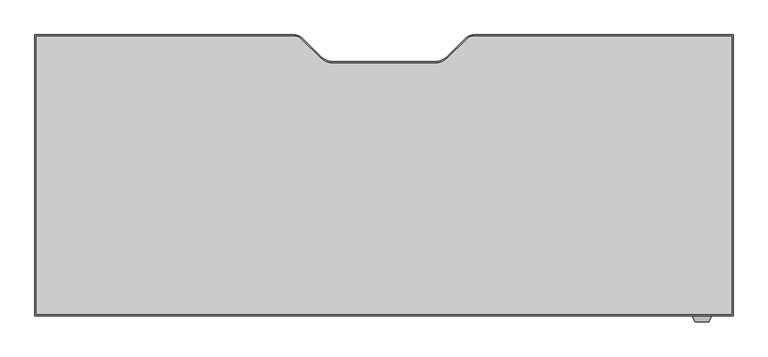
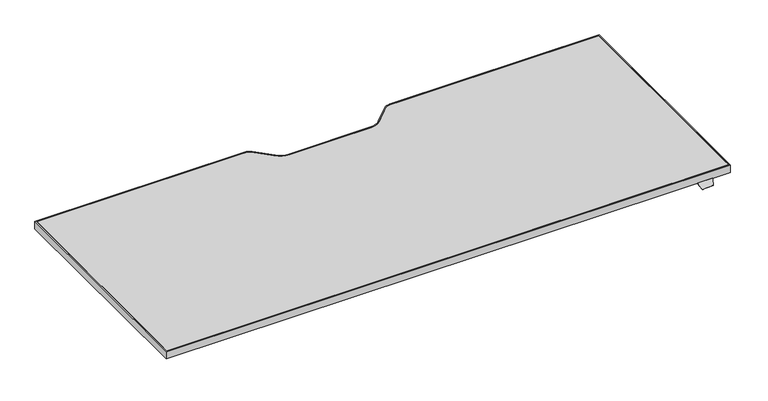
"""IFC4 building model written with IfcOpenShell, lengths in millimetres: furniture geometry, Steelcase Turnstone - Bivi - Height Adjustable Desk - C Base : 29D x 72W."""

import ifcopenshell
import ifcopenshell.guid

model = None  # the IFC model being written
_history = None  # IfcOwnerHistory: only IFC2X3 demands one
_inside = {}  # id of a spatial element -> (the spatial element, [elements in it])
_under = {}  # id of a project, library or spatial element -> (it, [spatial elements below it])
_declared = {}  # id of a project -> (the project, [libraries it declares])
_typed = {}  # id of a type object -> (the type object, [elements of that type])
_made_of = {}  # id of a material, layer set ... -> (it, [elements and type objects made of it])


def new_model(schema):
    """Start an empty IFC model of exactly this schema.

    Asked for "IFC4X3", IfcOpenShell would pick the latest addendum, in which some entities
    have other attributes; the version numbers below select the first issue.
    IFC2X3 requires an IfcOwnerHistory on every rooted entity: one is made here for all.
    """
    global model, _history
    if schema == "IFC4X3":
        model = ifcopenshell.file(schema_version=(4, 3, 0, 0))
    else:
        model = ifcopenshell.file(schema=schema)
    _inside.clear()
    _under.clear()
    _declared.clear()
    _typed.clear()
    _made_of.clear()
    _history = None
    if model.schema == "IFC2X3":
        org = make("IfcOrganization", Name="unknown")
        user = make(
            "IfcPersonAndOrganization",
            ThePerson=make("IfcPerson", FamilyName="unknown"),
            TheOrganization=org,
        )
        app = make(
            "IfcApplication",
            ApplicationDeveloper=org,
            Version="unknown",
            ApplicationFullName="unknown",
            ApplicationIdentifier="unknown",
        )
        _history = make(
            "IfcOwnerHistory",
            OwningUser=user,
            OwningApplication=app,
            ChangeAction="ADDED",
            CreationDate=0,
        )
    return model


def make(cls, **values):
    """One entity of the class cls with the attributes given. An attribute that is None is left unset."""
    return model.create_entity(
        cls, **{name: value for name, value in values.items() if value is not None}
    )


def rooted(cls, **values):
    """An entity with a GlobalId (a new one), such as an element, a storey or a relation."""
    return make(cls, GlobalId=ifcopenshell.guid.new(), OwnerHistory=_history, **values)


def si_unit(unit_type, name, prefix=None):
    """IfcSIUnit, for example si_unit("LENGTHUNIT", "METRE", prefix="MILLI")."""
    return make("IfcSIUnit", UnitType=unit_type, Prefix=prefix, Name=name)


def assignment(units):
    """IfcUnitAssignment: the units of a project."""
    return None if units is None else make("IfcUnitAssignment", Units=units)


def point(xyz):
    """IfcCartesianPoint."""
    return None if xyz is None else make("IfcCartesianPoint", Coordinates=xyz)


def direction(xyz):
    """IfcDirection."""
    return None if xyz is None else make("IfcDirection", DirectionRatios=xyz)


def frame(location, z_axis=None, x_axis=None):
    """IfcAxis2Placement3D, a coordinate frame: its origin and axes. An axis left out is left unset."""
    return make(
        "IfcAxis2Placement3D",
        Location=point(location),
        Axis=direction(z_axis),
        RefDirection=direction(x_axis),
    )


def frame_2d(location, x_axis=None):
    """IfcAxis2Placement2D, a coordinate frame in the plane: its origin and x axis."""
    return make(
        "IfcAxis2Placement2D", Location=point(location), RefDirection=direction(x_axis)
    )


def origin():
    """The frame at (0, 0, 0) with its axes left unset."""
    return frame((0.0, 0.0, 0.0))


def place(relative_to, where):
    """IfcLocalPlacement: puts the frame where relative to a parent placement (None: the world)."""
    return make(
        "IfcLocalPlacement", PlacementRelTo=relative_to, RelativePlacement=where
    )


def context(
    kind, dimensions, precision=None, world=None, true_north=None, identifier=None
):
    """IfcGeometricRepresentationContext, for example the 3D "Model" context."""
    return make(
        "IfcGeometricRepresentationContext",
        ContextIdentifier=identifier,
        ContextType=kind,
        CoordinateSpaceDimension=dimensions,
        Precision=precision,
        WorldCoordinateSystem=world,
        TrueNorth=true_north,
    )


def project(units=None, contexts=None):
    """IfcProject with its units and contexts."""
    return rooted(
        "IfcProject",
        Name="project",
        RepresentationContexts=contexts,
        UnitsInContext=assignment(units),
    )


def spatial(cls, under=None, at=None, **own):
    """A site, building, storey or space (cls), placed at a placement, below another one or the project."""
    s = rooted(cls, ObjectPlacement=at, **own)
    if under is not None:
        _under.setdefault(under.id(), (under, []))[1].append(s)
    return s


def polyline(points):
    """IfcPolyline through the points."""
    return make("IfcPolyline", Points=[point(p) for p in points])


def circle_curve(where, radius):
    """IfcCircle in the frame where."""
    return make("IfcCircle", Position=where, Radius=radius)


def trimmed(basis, trim1, trim2, sense, master):
    """IfcTrimmedCurve: the piece of a basis curve between two trims."""
    return make(
        "IfcTrimmedCurve",
        BasisCurve=basis,
        Trim1=trim1,
        Trim2=trim2,
        SenseAgreement=sense,
        MasterRepresentation=master,
    )


def segment(curve, same_sense, transition):
    """IfcCompositeCurveSegment."""
    return make(
        "IfcCompositeCurveSegment",
        Transition=transition,
        SameSense=same_sense,
        ParentCurve=curve,
    )


def composite_curve(segments, self_intersect=None):
    """IfcCompositeCurve: segments joined end to end."""
    return make("IfcCompositeCurve", Segments=segments, SelfIntersect=self_intersect)


def outline(outer, holes=None, kind="AREA"):
    """IfcArbitraryClosedProfileDef: a profile drawn as a closed curve; with holes, ...WithVoids."""
    if holes is None:
        return make("IfcArbitraryClosedProfileDef", ProfileType=kind, OuterCurve=outer)
    return make(
        "IfcArbitraryProfileDefWithVoids",
        ProfileType=kind,
        OuterCurve=outer,
        InnerCurves=holes,
    )


def extrude(swept, where, along, depth):
    """IfcExtrudedAreaSolid: the profile swept, set in the frame where, extruded along a direction by depth."""
    return make(
        "IfcExtrudedAreaSolid",
        SweptArea=swept,
        Position=where,
        ExtrudedDirection=direction(along),
        Depth=depth,
    )


def faces_of(points, faces, orient=None, outer=None):
    """IfcFace entities. A face is a list of loops; a loop is a list of indices into points, from 0.

    orient and outer hold one flag for each loop. By default every Orientation is true, the
    first loop of a face is its IfcFaceOuterBound and the others are IfcFaceBound.
    """
    made = []
    for i, loops in enumerate(faces):
        bounds = []
        for j, loop in enumerate(loops):
            is_outer = j == 0 if outer is None else outer[i][j]
            bounds.append(
                make(
                    "IfcFaceOuterBound" if is_outer else "IfcFaceBound",
                    Bound=make("IfcPolyLoop", Polygon=[points[k] for k in loop]),
                    Orientation=True if orient is None else orient[i][j],
                )
            )
        made.append(make("IfcFace", Bounds=bounds))
    return made


def faceted_brep(points, faces, orient=None, outer=None, voids=None):
    """IfcFacetedBrep: a solid bounded by flat faces; with voids (closed shells), ...WithVoids."""
    shared = [point(p) for p in points]
    hull = make("IfcClosedShell", CfsFaces=faces_of(shared, faces, orient, outer))
    if voids is None:
        return make("IfcFacetedBrep", Outer=hull)
    return make(
        "IfcFacetedBrepWithVoids",
        Outer=hull,
        Voids=[
            make(cls, CfsFaces=faces_of(shared, fs, o, b)) for cls, fs, o, b in voids
        ],
    )


def shape(context_of_items, identifier, shape_type, items):
    """IfcShapeRepresentation: the items that make up one representation, for example the "Body"."""
    return make(
        "IfcShapeRepresentation",
        ContextOfItems=context_of_items,
        RepresentationIdentifier=identifier,
        RepresentationType=shape_type,
        Items=items,
    )


def source(mapping_origin, context_of_items, identifier, shape_type, items):
    """IfcRepresentationMap: a shape defined once, which mapped items show again and again."""
    return make(
        "IfcRepresentationMap",
        MappingOrigin=mapping_origin,
        MappedRepresentation=shape(context_of_items, identifier, shape_type, items),
    )


def transform(
    local_origin,
    x_axis=None,
    y_axis=None,
    z_axis=None,
    scale=None,
    scale2=None,
    scale3=None,
    uniform=True,
):
    """IfcCartesianTransformationOperator3D, or its non-uniform kind. x_axis, y_axis, z_axis: its Axis1, 2, 3."""
    if uniform:
        return make(
            "IfcCartesianTransformationOperator3D",
            Axis1=direction(x_axis),
            Axis2=direction(y_axis),
            LocalOrigin=point(local_origin),
            Scale=scale,
            Axis3=direction(z_axis),
        )
    return make(
        "IfcCartesianTransformationOperator3DnonUniform",
        Axis1=direction(x_axis),
        Axis2=direction(y_axis),
        LocalOrigin=point(local_origin),
        Scale=scale,
        Axis3=direction(z_axis),
        Scale2=scale2,
        Scale3=scale3,
    )


def mapped(mapping_source, mapping_target):
    """IfcMappedItem: shows the shape of a source again, moved by a transform."""
    return make(
        "IfcMappedItem", MappingSource=mapping_source, MappingTarget=mapping_target
    )


def made_of(thing, what):
    """Note that an element or type object is made of a material, layer set ...; save() writes the relation."""
    if what is not None:
        _made_of.setdefault(what.id(), (what, []))[1].append(thing)
    return thing


def element(
    cls,
    number,
    at=None,
    inside=None,
    cuts=None,
    type_object=None,
    material=None,
    context=None,
    identifier="Body",
    shape_type=None,
    held_by="IfcProductDefinitionShape",
    body=None,
    shapes=None,
    **own,
):
    """One element of the class cls, such as IfcWall. Its Tag is "e" and its number.

    at: its placement. inside: the storey or other place that contains it. cuts: it is an
    opening in that element (IfcRelVoidsElement). A single representation is given by context,
    identifier, shape_type and body (its items); several are given by shapes. held_by: the class
    of the entity that holds the representations. save() writes the other relations.
    """
    e = rooted(cls, Tag="e%d" % number, ObjectPlacement=at, **own)
    if body is not None:
        shapes = [shape(context, identifier, shape_type, body)]
    if shapes is not None:
        e.Representation = make(held_by, Representations=shapes)
    if inside is not None:
        _inside.setdefault(inside.id(), (inside, []))[1].append(e)
    if cuts is not None:
        rooted(
            "IfcRelVoidsElement", RelatingBuildingElement=cuts, RelatedOpeningElement=e
        )
    if type_object is not None:
        _typed.setdefault(type_object.id(), (type_object, []))[1].append(e)
    return made_of(e, material)


def aggregate(whole, parts):
    """IfcRelAggregates: a whole, such as a stair, and the parts it consists of."""
    return rooted("IfcRelAggregates", RelatingObject=whole, RelatedObjects=parts)


def save(model, path):
    """Write the relations noted so far, then the file.

    IfcRelAggregates (storeys below a building ...), IfcRelContainedInSpatialStructure (elements
    in a storey), IfcRelDefinesByType, IfcRelAssociatesMaterial and IfcRelDeclares: one each for
    every whole, place, type object, material and project.
    """
    for whole, parts in _under.values():
        aggregate(whole, parts)
    for where, things in _inside.values():
        rooted(
            "IfcRelContainedInSpatialStructure",
            RelatedElements=things,
            RelatingStructure=where,
        )
    for kind, things in _typed.values():
        rooted("IfcRelDefinesByType", RelatedObjects=things, RelatingType=kind)
    for what, things in _made_of.values():
        rooted("IfcRelAssociatesMaterial", RelatedObjects=things, RelatingMaterial=what)
    for by, libraries in _declared.values():
        rooted("IfcRelDeclares", RelatingContext=by, RelatedDefinitions=libraries)
    model.write(path)


def furniture_5edf64bf(model_context):
    return source(origin(), model_context, "Body", "SolidModel", [
        faceted_brep([(468.4177913, -465.8301693, 760.9984131), (468.4177913, -463.3074599, 760.9984131), (468.4177913, -463.3074599, 762.4), (468.4177913, -465.8490853, 762.4), (468.4177913, -467.1594921, 761.3004382), (468.4177913, -467.1594921, 759.8829789), (418.8448135, -465.8490853, 762.4), (418.8448135, -463.3074599, 762.4), (418.8448135, -463.3074599, 760.9984131), (418.8448135, -465.8301693, 760.9984131), (418.8448135, -467.1594921, 759.8829789), (418.8448135, -467.1594921, 761.3004382), (461.4358363, -482.1323429, 748.7367246), (425.8267685, -482.1323429, 748.7367246), (425.4673686, -481.3616074, 747.9659891), (461.7952362, -481.3616074, 747.9659891)], [[[0, 1, 2, 3, 4, 5]], [[6, 7, 8, 9, 10, 11]], [[12, 13, 14, 15]], [[9, 0, 5, 15, 14, 10]], [[1, 0, 9, 8]], [[2, 1, 8, 7]], [[3, 2, 7, 6]], [[3, 6, 11, 13, 12, 4]], [[5, 4, 12, 15]], [[11, 10, 14, 13]]]),
        extrude(outline(composite_curve([segment(polyline([(-1303.6285908, 270.7509147), (-623.9070191, 270.7509147)]), True, "CONTINUOUS"), segment(trimmed(circle_curve(frame_2d((-623.9070191, 242.0489147)), 28.702), [point((-623.9070191, 270.7509147))], [point((-603.6116402, 262.3442935))], False, "CARTESIAN"), True, "CONTINUOUS"), segment(polyline([(-603.6116402, 262.3442935), (-556.0972358, 214.8298891)]), True, "CONTINUOUS"), segment(trimmed(circle_curve(frame_2d((-520.1762113, 250.7509136)), 50.8), [point((-556.0972358, 214.8298891))], [point((-520.1762113, 199.9509136))], True, "CARTESIAN"), True, "CONTINUOUS"), segment(polyline([(-520.1762113, 199.9509136), (-258.2809703, 199.9509136)]), True, "CONTINUOUS"), segment(trimmed(circle_curve(frame_2d((-258.2809703, 250.7509136)), 50.8), [point((-258.2809703, 199.9509136))], [point((-222.3599458, 214.8298891))], True, "CARTESIAN"), True, "CONTINUOUS"), segment(polyline([(-222.3599458, 214.8298891), (-174.8455414, 262.3442935)]), True, "CONTINUOUS"), segment(trimmed(circle_curve(frame_2d((-154.5501625, 242.0489147)), 28.702), [point((-174.8455414, 262.3442935))], [point((-154.5501625, 270.7509147))], False, "CARTESIAN"), True, "CONTINUOUS"), segment(polyline([(-154.5501625, 270.7509147), (525.1714092, 270.7509147), (525.1714092, -465.8490853), (-1303.6285908, -465.8490853), (-1303.6285908, 270.7509147)]), True, "CONTINUOUS")], self_intersect=False), holes=[composite_curve([segment(polyline([(-1300.2487543, 267.4489147), (-1300.2487543, -462.5470853), (521.8694092, -462.5470853), (521.8694092, 267.4489147), (-154.5501625, 267.4489147)]), True, "CONTINUOUS"), segment(trimmed(circle_curve(frame_2d((-154.5501625, 242.0489147)), 25.4), [point((-154.5501625, 267.4489147))], [point((-172.5106748, 260.0094269))], True, "CARTESIAN"), True, "CONTINUOUS"), segment(polyline([(-172.5106748, 260.0094269), (-220.527602, 211.9924998)]), True, "CONTINUOUS"), segment(trimmed(circle_curve(frame_2d((-256.4486265, 247.9135242)), 50.8), [point((-220.527602, 211.9924998))], [point((-256.4486265, 197.1135242))], False, "CARTESIAN"), True, "CONTINUOUS"), segment(polyline([(-256.4486265, 197.1135242), (-389.2285908, 197.1135242), (-522.0085552, 197.1135242)]), True, "CONTINUOUS"), segment(trimmed(circle_curve(frame_2d((-522.0085552, 247.9135242)), 50.8), [point((-522.0085552, 197.1135242))], [point((-557.9295796, 211.9924998))], False, "CARTESIAN"), True, "CONTINUOUS"), segment(polyline([(-557.9295796, 211.9924998), (-605.9465068, 260.0094269)]), True, "CONTINUOUS"), segment(trimmed(circle_curve(frame_2d((-623.9070191, 242.0489147)), 25.4), [point((-605.9465068, 260.0094269))], [point((-623.9070191, 267.4489147))], True, "CARTESIAN"), True, "CONTINUOUS"), segment(polyline([(-623.9070191, 267.4489147), (-1300.2487543, 267.4489147)]), True, "CONTINUOUS")], self_intersect=False)]), frame((0.0, 0.0, 762.4), z_axis=(0.0, 0.0, 1.0), x_axis=(1.0, 0.0, 0.0)), (0.0, 0.0, 1.0), 25.0),
        extrude(outline(composite_curve([segment(polyline([(-1300.2487543, 267.4489147), (-623.9070191, 267.4489147)]), True, "CONTINUOUS"), segment(trimmed(circle_curve(frame_2d((-623.9070191, 242.0489147)), 25.4), [point((-623.9070191, 267.4489147))], [point((-605.9465068, 260.0094269))], False, "CARTESIAN"), True, "CONTINUOUS"), segment(polyline([(-605.9465068, 260.0094269), (-557.9295796, 211.9924998)]), True, "CONTINUOUS"), segment(trimmed(circle_curve(frame_2d((-522.0085552, 247.9135242)), 50.8), [point((-557.9295796, 211.9924998))], [point((-522.0085552, 197.1135242))], True, "CARTESIAN"), True, "CONTINUOUS"), segment(polyline([(-522.0085552, 197.1135242), (-389.2285908, 197.1135242), (-256.4486265, 197.1135242)]), True, "CONTINUOUS"), segment(trimmed(circle_curve(frame_2d((-256.4486265, 247.9135242)), 50.8), [point((-256.4486265, 197.1135242))], [point((-220.527602, 211.9924998))], True, "CARTESIAN"), True, "CONTINUOUS"), segment(polyline([(-220.527602, 211.9924998), (-172.5106748, 260.0094269)]), True, "CONTINUOUS"), segment(trimmed(circle_curve(frame_2d((-154.5501625, 242.0489147)), 25.4), [point((-172.5106748, 260.0094269))], [point((-154.5501625, 267.4489147))], False, "CARTESIAN"), True, "CONTINUOUS"), segment(polyline([(-154.5501625, 267.4489147), (521.8694092, 267.4489147), (521.8694092, -462.5470853), (-1300.2487543, -462.5470853), (-1300.2487543, 267.4489147)]), True, "CONTINUOUS")], self_intersect=False)), frame((0.0, 0.0, 762.4), z_axis=(0.0, 0.0, 1.0), x_axis=(1.0, 0.0, 0.0)), (0.0, 0.0, 1.0), 25.0),
    ])


if __name__ == "__main__":
    model = new_model("IFC4")
    model_context = context("Model", 3, world=origin())
    ifc_project = project(units=[si_unit("LENGTHUNIT", "METRE", prefix="MILLI")], contexts=[model_context])
    site = spatial("IfcSite", under=ifc_project)
    building = spatial("IfcBuilding", under=site)
    placement = place(None, origin())
    furniture_shape = furniture_5edf64bf(model_context)
    element("IfcFurniture", 1, ObjectType="Steelcase Turnstone - Bivi - Height Adjustable Desk - C Base : 29D x 72W", at=placement, inside=building, context=model_context, shape_type="MappedRepresentation", body=[
        mapped(furniture_shape, transform((0.0, 0.0, 0.0), x_axis=(1.0, 0.0, 0.0), y_axis=(0.0, 1.0, 0.0), z_axis=(0.0, 0.0, 1.0))),
    ])
    save(model, "model.ifc")
